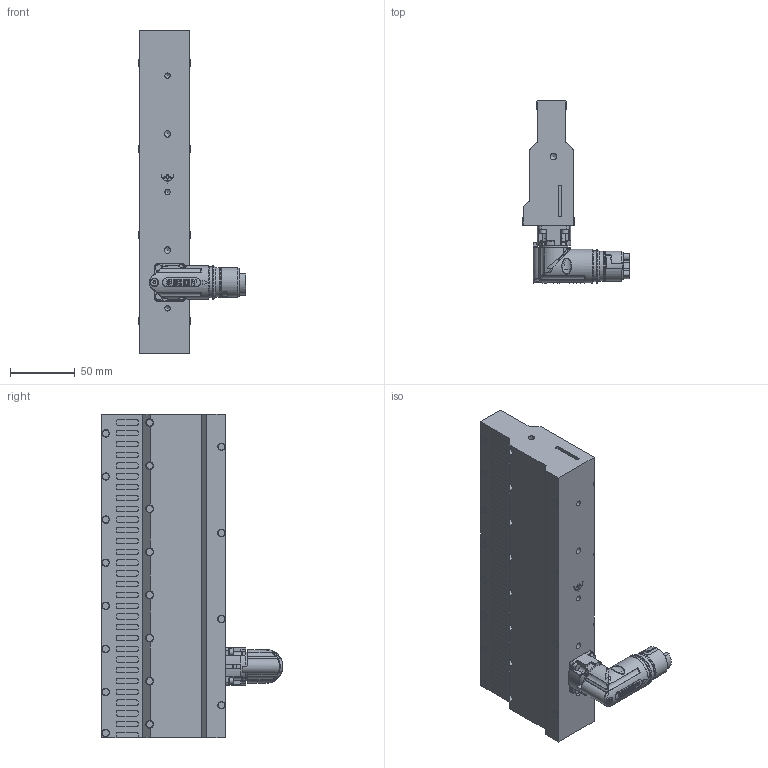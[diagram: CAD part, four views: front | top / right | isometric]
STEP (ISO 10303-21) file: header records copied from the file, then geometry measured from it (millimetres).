
FILE_DESCRIPTION(/* description */ ('AT2002-0250-ZX2002-0002'),/* implementation_level */ '2;1');
FILE_NAME(/* name */ '0000018262_AT2002-0250-ZX2002-0002.stp',/* time_stamp */ '2024-05-08T10:50:46+02:00',/* author */ ('PhilE'),/* organization */ (''),/* preprocessor_version */ 'ST-DEVELOPER v20',/* originating_system */ 'Autodesk Inventor 2024',/* authorisation */ '');
FILE_SCHEMA (('AUTOMOTIVE_DESIGN { 1 0 10303 214 3 1 1 }'));
Products named in the file (1): 0000018262
Bounding box: 82.88 x 140.43 x 250 mm (x, y, z)
Volume: 759085.7 mm3; surface area: 111559.2 mm2
Topology: 30 solids, 30 shells, 3023 faces, 8488 edges, 5650 vertices
Faces by surface type: plane 1514, cylinder 757, bspline 426, cone 205, torus 120, sphere 1
Full cylindrical faces by diameter (mm): 0.6 x4, 0.8 x5, 0.9 x4, 1 x8, 1.4 x2, 1.45 x1, 1.5 x4, 1.6 x4, 2 x1, 2.06 x2, 2.1 x2, 2.2 x6, 2.25 x5, 2.4 x5, 2.95 x5, 3 x3, 3.2 x4, 3.242 x3, 3.3 x2, 3.5 x5, 3.8 x5, 4.134 x4, 4.4 x1, 5 x10, 5.2 x6, 5.6 x1, 5.7 x40, 6 x16, 15 x1, 17.35 x1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
Entity records: 114711 total; most frequent: CARTESIAN_POINT 34390, ORIENTED_EDGE 16886, DIRECTION 15511, EDGE_CURVE 8443, AXIS2_PLACEMENT_3D 5849, VERTEX_POINT 5649, LINE 3813, VECTOR 3813
